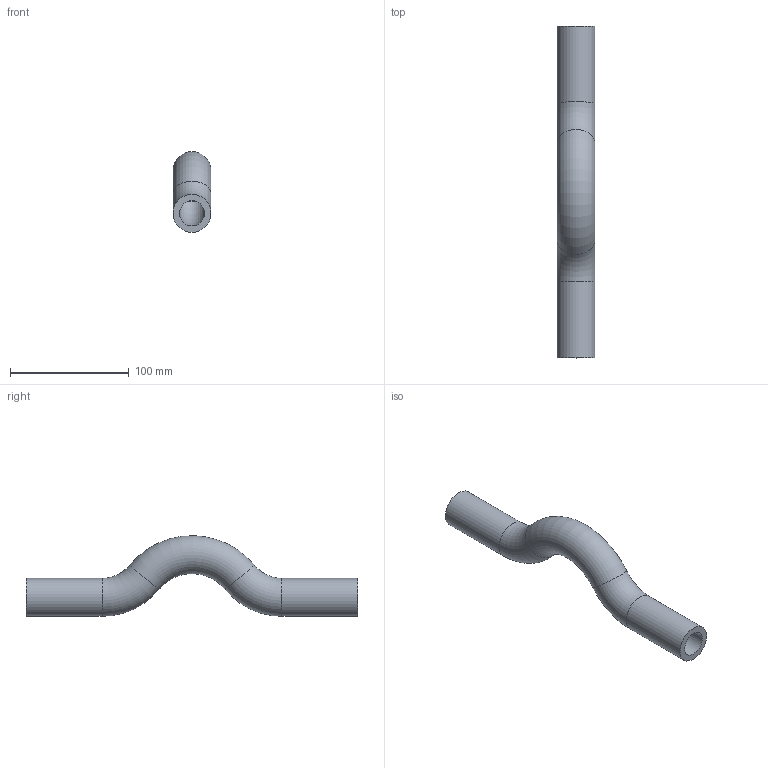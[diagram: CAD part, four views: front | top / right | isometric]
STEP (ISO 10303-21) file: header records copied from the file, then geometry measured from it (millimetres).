
FILE_DESCRIPTION(('STEP AP203'), '1');
FILE_NAME('ÂÐ.747111.026 - VTp.793.0.032', '', ('UNSPECIFIED'), ('UNSPECIFIED'), 'C3D Converter', 'C3D Toolkit', '');
FILE_SCHEMA(('CONFIG_CONTROL_DESIGN'));
Length unit declared in the file: millimetre
Products named in the file (1): ВР.747111.026
Bounding box: 32 x 280 x 67.99 mm (x, y, z)
Volume: 136204.1 mm3; surface area: 51348.5 mm2
Topology: 1 solids, 1 shells, 12 faces, 22 edges, 12 vertices
Faces by surface type: torus 6, cylinder 4, plane 2
Full cylindrical faces by diameter (mm): 21.2 x2, 32 x2
Entity records: 288 total; most frequent: DIRECTION 50, CARTESIAN_POINT 37, AXIS2_PLACEMENT_3D 25, EDGE_LOOP 24, ORIENTED_EDGE 24, FACE_OUTER_BOUND 20, ADVANCED_FACE 12, EDGE_CURVE 12
